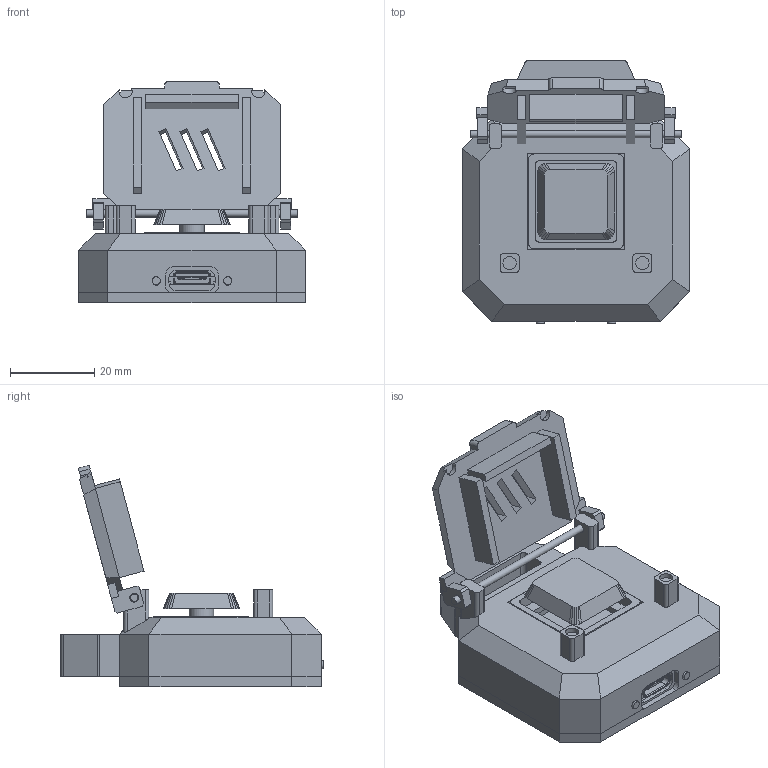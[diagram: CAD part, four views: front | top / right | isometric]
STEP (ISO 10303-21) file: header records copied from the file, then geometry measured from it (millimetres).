
FILE_DESCRIPTION(('Open CASCADE Model'),'2;1');
FILE_NAME('Open CASCADE Shape Model','2026-09-30T20:51:50',('Author'),( 'Open CASCADE'),'Open CASCADE STEP processor 7.9','Open CASCADE 7.9' ,'Unknown');
FILE_SCHEMA(('AUTOMOTIVE_DESIGN { 1 0 10303 214 1 1 1 1 }'));
Length unit declared in the file: millimetre
Products named in the file (10): ff152e76-bcff-11f1-a0bf-6319a275829e; upper_shell; bottom_chassis; keycap; accent_halo; lightguides; flip_shield_open; xiao_locking_wedge; filament_hinge_pin; Seeed_XIAO_ESP32S3_reference
Assembly tree (9 placements, depth 2):
  ff152e76-bcff-11f1-a0bf-6319a275829e
    upper_shell
    bottom_chassis
    keycap
    accent_halo
    lightguides
    flip_shield_open
    xiao_locking_wedge
    filament_hinge_pin
    Seeed_XIAO_ESP32S3_reference
Bounding box: 54 x 62.5 x 52.7 mm (x, y, z)
Volume: 25578.4 mm3; surface area: 26883 mm2
Topology: 45 solids, 50 shells, 1401 faces, 3613 edges, 2357 vertices
Faces by surface type: plane 1012, cylinder 283, bspline 77, torus 12, cone 11, sphere 6
Full cylindrical faces by diameter (mm): 0.5 x3, 0.6 x2, 0.75 x14, 1.524 x8, 1.72 x1, 1.75 x1, 1.86 x1, 1.9 x2, 2 x4, 2.1 x4, 3.15 x2, 3.4 x6, 5.8 x1, 7.2 x2
Entity records: 92684 total; most frequent: CARTESIAN_POINT 20122, DIRECTION 13129, LINE 8966, VECTOR 8966, ORIENTED_EDGE 7210, PCURVE 7210, DEFINITIONAL_REPRESENTATION 7210, EDGE_CURVE 3605
